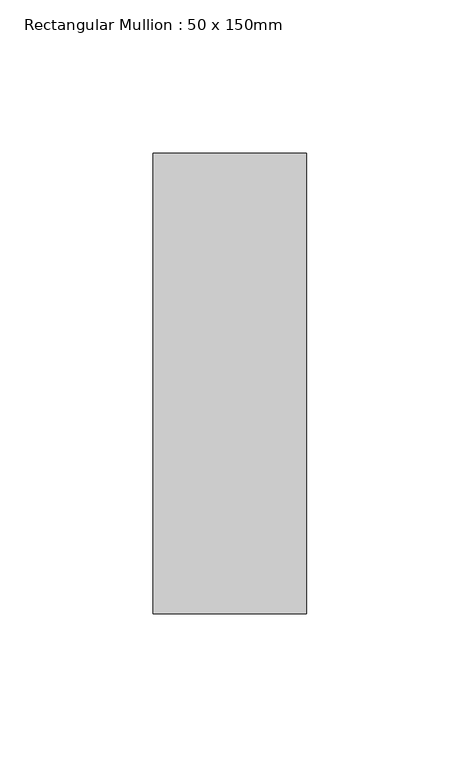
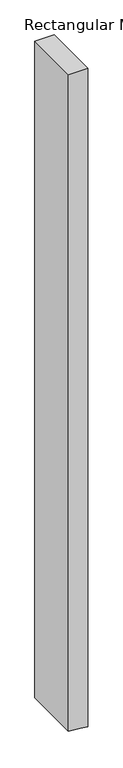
"""IFC4 building model written with IfcOpenShell, lengths in millimetres: member geometry, Rectangular Mullion : 50 x 150mm."""

from ifc_helpers import new_model, si_unit, frame, origin, place, context, project, spatial, polyline, outline, extrude, source, transform, mapped, element, save


def rectangular_mullion_50_x_150mm_da950c4f(model_context):
    return source(origin(), model_context, "Body", "SweptSolid", [
        extrude(outline(polyline([(0.0, 25.0), (0.0, -25.0), (-1793.046967, -25.0), (-1796.5271263, 5.6423937), (-1798.7256344, 25.0), (0.0, 25.0)])), frame((0.0, -75.0, 0.0), z_axis=(0.0, 1.0, 0.0), x_axis=(0.0, 0.0, 1.0)), (0.0, 0.0, 1.0), 150.0),
    ])


if __name__ == "__main__":
    model = new_model("IFC4")
    model_context = context("Model", 3, world=origin())
    ifc_project = project(units=[si_unit("LENGTHUNIT", "METRE", prefix="MILLI")], contexts=[model_context])
    site = spatial("IfcSite", under=ifc_project)
    building = spatial("IfcBuilding", under=site)
    placement = place(None, origin())
    rectangular_mullion_50_x_150mm_shape = rectangular_mullion_50_x_150mm_da950c4f(model_context)
    element("IfcMember", 1, ObjectType="Rectangular Mullion : 50 x 150mm", at=placement, inside=building, context=model_context, shape_type="MappedRepresentation", body=[
        mapped(rectangular_mullion_50_x_150mm_shape, transform((0.0, 0.0, 0.0), x_axis=(1.0, 0.0, 0.0), y_axis=(0.0, 1.0, 0.0), z_axis=(0.0, 0.0, 1.0))),
    ])
    save(model, "model.ifc")
